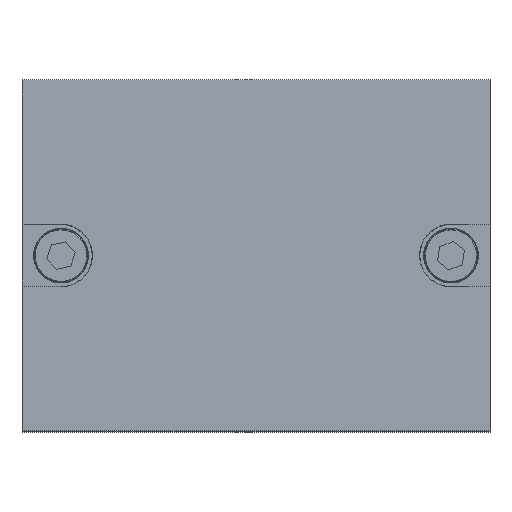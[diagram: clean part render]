
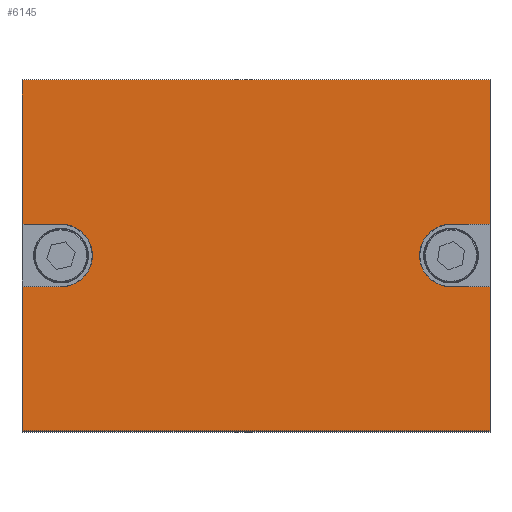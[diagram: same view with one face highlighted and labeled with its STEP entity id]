
A CAD part, top view. The second image highlights one B-rep face of the part: STEP entity #6145.
In plain terms, the highlighted planar face has unit normal (0, 0, 1).
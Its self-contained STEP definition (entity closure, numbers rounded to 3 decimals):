
#157 = VECTOR ( 'NONE', #7887, 1000. ) ;
#200 = DIRECTION ( 'NONE',  ( -1., 0., 0. ) ) ;
#262 = EDGE_CURVE ( 'NONE', #4221, #5128, #7517, .T. ) ;
#369 = DIRECTION ( 'NONE',  ( 1., 0., 0. ) ) ;
#382 = DIRECTION ( 'NONE',  ( 0., -1., 0. ) ) ;
#444 = ORIENTED_EDGE ( 'NONE', *, *, #2324, .F. ) ;
#593 = VECTOR ( 'NONE', #200, 1000. ) ;
#638 = PLANE ( 'NONE',  #3643 ) ;
#912 = EDGE_CURVE ( 'NONE', #8927, #9190, #3739, .T. ) ;
#999 = AXIS2_PLACEMENT_3D ( 'NONE', #8912, #2079, #7408 ) ;
#1090 = CARTESIAN_POINT ( 'NONE',  ( -30., -22.5, 75. ) ) ;
#1267 = ORIENTED_EDGE ( 'NONE', *, *, #7836, .F. ) ;
#1303 = VERTEX_POINT ( 'NONE', #6761 ) ;
#1338 = VERTEX_POINT ( 'NONE', #5950 ) ;
#1343 = DIRECTION ( 'NONE',  ( 1., 0., 0. ) ) ;
#1458 = ORIENTED_EDGE ( 'NONE', *, *, #912, .T. ) ;
#1477 = ORIENTED_EDGE ( 'NONE', *, *, #9247, .F. ) ;
#1498 = CARTESIAN_POINT ( 'NONE',  ( -25., 0., 75. ) ) ;
#1594 = LINE ( 'NONE', #3983, #8659 ) ;
#1693 = ORIENTED_EDGE ( 'NONE', *, *, #2124, .F. ) ;
#1752 = CARTESIAN_POINT ( 'NONE',  ( 30., 22.5, 75. ) ) ;
#1985 = CARTESIAN_POINT ( 'NONE',  ( 25., -4.025, 75. ) ) ;
#2078 = CARTESIAN_POINT ( 'NONE',  ( 0., 0., 75. ) ) ;
#2079 = DIRECTION ( 'NONE',  ( 0., 0., 1. ) ) ;
#2124 = EDGE_CURVE ( 'NONE', #5119, #3172, #4558, .T. ) ;
#2324 = EDGE_CURVE ( 'NONE', #3172, #6565, #5716, .T. ) ;
#2430 = ORIENTED_EDGE ( 'NONE', *, *, #8826, .T. ) ;
#2490 = ORIENTED_EDGE ( 'NONE', *, *, #9724, .F. ) ;
#2522 = EDGE_CURVE ( 'NONE', #5128, #5430, #1594, .T. ) ;
#2589 = VECTOR ( 'NONE', #9061, 1000. ) ;
#2595 = ORIENTED_EDGE ( 'NONE', *, *, #7559, .T. ) ;
#2729 = LINE ( 'NONE', #5568, #157 ) ;
#2743 = CARTESIAN_POINT ( 'NONE',  ( -25., 0., 75. ) ) ;
#2757 = CIRCLE ( 'NONE', #999, 4.025 ) ;
#2848 = LINE ( 'NONE', #4194, #7084 ) ;
#2930 = CARTESIAN_POINT ( 'NONE',  ( 25., 4.025, 75. ) ) ;
#3023 = CARTESIAN_POINT ( 'NONE',  ( 30., -4.025, 75. ) ) ;
#3075 = DIRECTION ( 'NONE',  ( 1., 0., 0. ) ) ;
#3169 = FACE_OUTER_BOUND ( 'NONE', #8061, .T. ) ;
#3172 = VERTEX_POINT ( 'NONE', #4232 ) ;
#3174 = CARTESIAN_POINT ( 'NONE',  ( 30., -22.5, 75. ) ) ;
#3259 = ORIENTED_EDGE ( 'NONE', *, *, #6784, .F. ) ;
#3314 = LINE ( 'NONE', #4832, #9673 ) ;
#3408 = CIRCLE ( 'NONE', #5839, 4.025 ) ;
#3643 = AXIS2_PLACEMENT_3D ( 'NONE', #2078, #5916, #1343 ) ;
#3649 = DIRECTION ( 'NONE',  ( 0., 1., 0. ) ) ;
#3739 = LINE ( 'NONE', #7396, #6808 ) ;
#3937 = LINE ( 'NONE', #1090, #8885 ) ;
#3959 = DIRECTION ( 'NONE',  ( 0., -1., 0. ) ) ;
#3983 = CARTESIAN_POINT ( 'NONE',  ( 30., -22.5, 75. ) ) ;
#4007 = ORIENTED_EDGE ( 'NONE', *, *, #262, .T. ) ;
#4169 = DIRECTION ( 'NONE',  ( 0., 0., 1. ) ) ;
#4194 = CARTESIAN_POINT ( 'NONE',  ( -30., -22.5, 75. ) ) ;
#4204 = VECTOR ( 'NONE', #6101, 1000. ) ;
#4221 = VERTEX_POINT ( 'NONE', #5782 ) ;
#4232 = CARTESIAN_POINT ( 'NONE',  ( -25., 4.025, 75. ) ) ;
#4464 = CARTESIAN_POINT ( 'NONE',  ( -25., 4.025, 75. ) ) ;
#4558 = CIRCLE ( 'NONE', #8808, 4.025 ) ;
#4598 = LINE ( 'NONE', #5352, #2589 ) ;
#4618 = EDGE_CURVE ( 'NONE', #8927, #7318, #2729, .T. ) ;
#4736 = DIRECTION ( 'NONE',  ( 0., 1., 0. ) ) ;
#4832 = CARTESIAN_POINT ( 'NONE',  ( -25., -4.025, 75. ) ) ;
#4966 = VERTEX_POINT ( 'NONE', #6778 ) ;
#5068 = DIRECTION ( 'NONE',  ( 1., 0., 0. ) ) ;
#5119 = VERTEX_POINT ( 'NONE', #5526 ) ;
#5128 = VERTEX_POINT ( 'NONE', #3174 ) ;
#5313 = ORIENTED_EDGE ( 'NONE', *, *, #6903, .T. ) ;
#5352 = CARTESIAN_POINT ( 'NONE',  ( 25., -4.025, 75. ) ) ;
#5430 = VERTEX_POINT ( 'NONE', #3023 ) ;
#5526 = CARTESIAN_POINT ( 'NONE',  ( -20.975, 0., 75. ) ) ;
#5568 = CARTESIAN_POINT ( 'NONE',  ( 25., 4.025, 75. ) ) ;
#5716 = LINE ( 'NONE', #4464, #4204 ) ;
#5782 = CARTESIAN_POINT ( 'NONE',  ( -30., -22.5, 75. ) ) ;
#5839 = AXIS2_PLACEMENT_3D ( 'NONE', #1498, #8278, #3075 ) ;
#5886 = CARTESIAN_POINT ( 'NONE',  ( 30., 4.025, 75. ) ) ;
#5916 = DIRECTION ( 'NONE',  ( 0., 0., 1. ) ) ;
#5950 = CARTESIAN_POINT ( 'NONE',  ( -25., -4.025, 75. ) ) ;
#6101 = DIRECTION ( 'NONE',  ( -1., 0., 0. ) ) ;
#6145 = ADVANCED_FACE ( 'NONE', ( #3169 ), #638, .T. ) ;
#6444 = DIRECTION ( 'NONE',  ( 1., 0., 0. ) ) ;
#6455 = CARTESIAN_POINT ( 'NONE',  ( -30., 4.025, 75. ) ) ;
#6565 = VERTEX_POINT ( 'NONE', #6455 ) ;
#6761 = CARTESIAN_POINT ( 'NONE',  ( -30., -4.025, 75. ) ) ;
#6778 = CARTESIAN_POINT ( 'NONE',  ( -30., 22.5, 75. ) ) ;
#6784 = EDGE_CURVE ( 'NONE', #1338, #5119, #3408, .T. ) ;
#6808 = VECTOR ( 'NONE', #3649, 1000. ) ;
#6903 = EDGE_CURVE ( 'NONE', #9190, #4966, #8578, .T. ) ;
#6919 = CARTESIAN_POINT ( 'NONE',  ( 30., 22.5, 75. ) ) ;
#7084 = VECTOR ( 'NONE', #382, 1000. ) ;
#7191 = VERTEX_POINT ( 'NONE', #1985 ) ;
#7318 = VERTEX_POINT ( 'NONE', #2930 ) ;
#7396 = CARTESIAN_POINT ( 'NONE',  ( 30., -22.5, 75. ) ) ;
#7408 = DIRECTION ( 'NONE',  ( 1., 0., 0. ) ) ;
#7517 = LINE ( 'NONE', #8712, #7864 ) ;
#7559 = EDGE_CURVE ( 'NONE', #1303, #4221, #3937, .T. ) ;
#7836 = EDGE_CURVE ( 'NONE', #7318, #7191, #2757, .T. ) ;
#7864 = VECTOR ( 'NONE', #5068, 1000. ) ;
#7887 = DIRECTION ( 'NONE',  ( -1., 0., 0. ) ) ;
#8061 = EDGE_LOOP ( 'NONE', ( #1477, #2595, #4007, #8678, #2490, #1267, #9566, #1458, #5313, #2430, #444, #1693, #3259 ) ) ;
#8278 = DIRECTION ( 'NONE',  ( 0., 0., 1. ) ) ;
#8578 = LINE ( 'NONE', #1752, #593 ) ;
#8659 = VECTOR ( 'NONE', #4736, 1000. ) ;
#8678 = ORIENTED_EDGE ( 'NONE', *, *, #2522, .T. ) ;
#8712 = CARTESIAN_POINT ( 'NONE',  ( 30., -22.5, 75. ) ) ;
#8808 = AXIS2_PLACEMENT_3D ( 'NONE', #2743, #4169, #6444 ) ;
#8826 = EDGE_CURVE ( 'NONE', #4966, #6565, #2848, .T. ) ;
#8885 = VECTOR ( 'NONE', #3959, 1000. ) ;
#8912 = CARTESIAN_POINT ( 'NONE',  ( 25., 0., 75. ) ) ;
#8927 = VERTEX_POINT ( 'NONE', #5886 ) ;
#9061 = DIRECTION ( 'NONE',  ( 1., 0., 0. ) ) ;
#9190 = VERTEX_POINT ( 'NONE', #6919 ) ;
#9247 = EDGE_CURVE ( 'NONE', #1303, #1338, #3314, .T. ) ;
#9566 = ORIENTED_EDGE ( 'NONE', *, *, #4618, .F. ) ;
#9673 = VECTOR ( 'NONE', #369, 1000. ) ;
#9724 = EDGE_CURVE ( 'NONE', #7191, #5430, #4598, .T. ) ;
